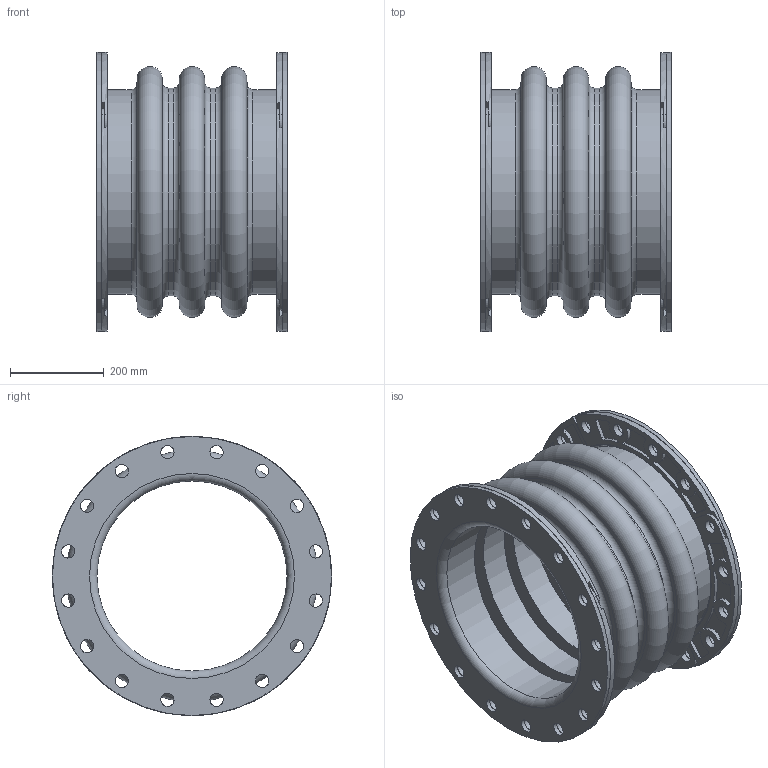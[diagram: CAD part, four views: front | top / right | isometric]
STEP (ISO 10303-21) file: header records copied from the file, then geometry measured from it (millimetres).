
FILE_DESCRIPTION(/* description */ (''),/* implementation_level */ '2;1');
FILE_NAME(/* name */ 'C:\001_Work\Designs\Mercer2014\MQInventor2014\RajR\500 Style\503\New folder\503 16IDx16FF.stp',/* time_stamp */ '2016-03-26T18:03:53-04:00',/* author */ ('rramoutar'),/* organization */ ('Mason Industries Inc.'),/* preprocessor_version */ 'ST-DEVELOPER v15.6',/* originating_system */ 'Autodesk Inventor 2015',/* authorisation */ '');
FILE_SCHEMA (('CONFIG_CONTROL_DESIGN'));
Length unit declared in the file: inch
Products named in the file (1): 503 16IDx16FF
Bounding box: 406.4 x 596.9 x 596.9 mm (x, y, z)
Volume: 18780183.2 mm3; surface area: 2959540.4 mm2
Topology: 3 solids, 3 shells, 612 faces, 1692 edges, 1116 vertices
Faces by surface type: cylinder 404, plane 164, torus 32, cone 12
Full cylindrical faces by diameter (mm): 28.575 x64, 406.4 x4, 438.15 x2, 444.5 x2, 450.85 x2, 596.9 x2
Entity records: 20846 total; most frequent: CARTESIAN_POINT 3969, DIRECTION 3662, ORIENTED_EDGE 3156, EDGE_CURVE 1578, AXIS2_PLACEMENT_3D 1511, VERTEX_POINT 1106, CIRCLE 898, EDGE_LOOP 880
